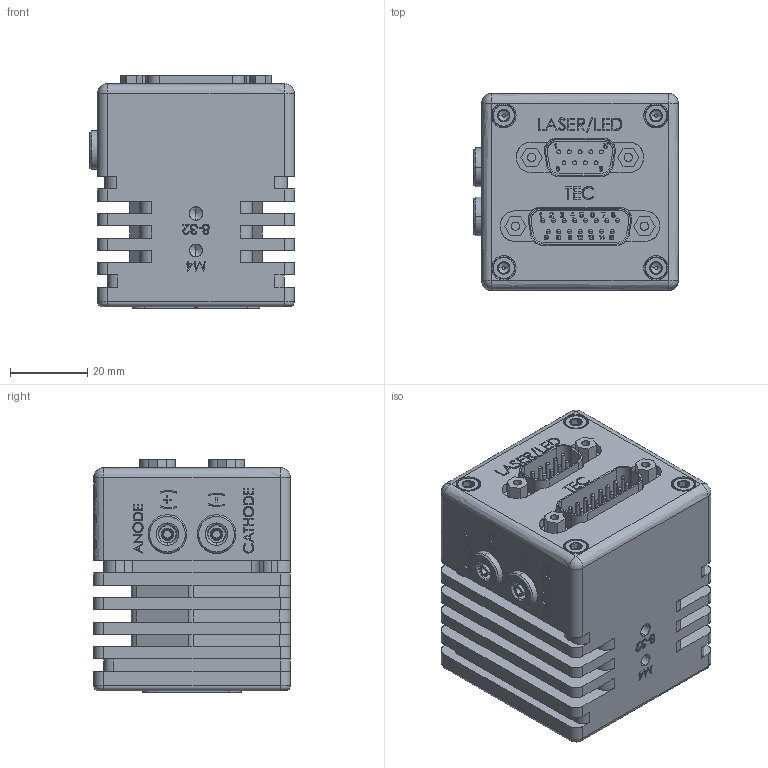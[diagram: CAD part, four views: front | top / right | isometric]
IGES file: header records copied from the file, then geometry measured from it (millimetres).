
Start section: SolidWorks IGES file using analytic representation for surfaces
Global section: file name: C:\Dropbox\Mechanical Engr\Development Projects (P)\226 LaserMount, LED\Customer Model Development\226 TLA.IGS; native system: SolidWorks 2016; preprocessor: SolidWorks 2016; author: mhanson; date: 180115.101843; units: inch
Bounding box: 52.83 x 50.8 x 60.36 mm (x, y, z)
Surface area: 32795.1 mm2 (no closed solid volume)
Topology: 0 solids, 0 shells, 2565 faces, 24667 edges, 24577 vertices
Faces by surface type: bspline 2114, revolution 451
